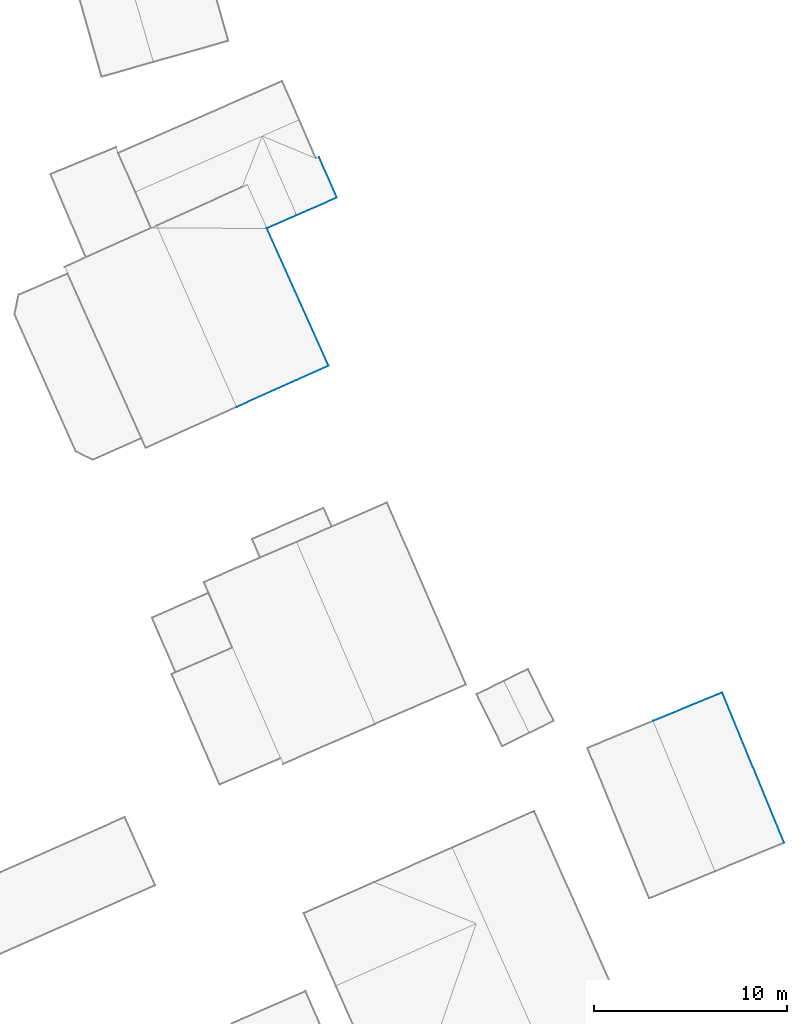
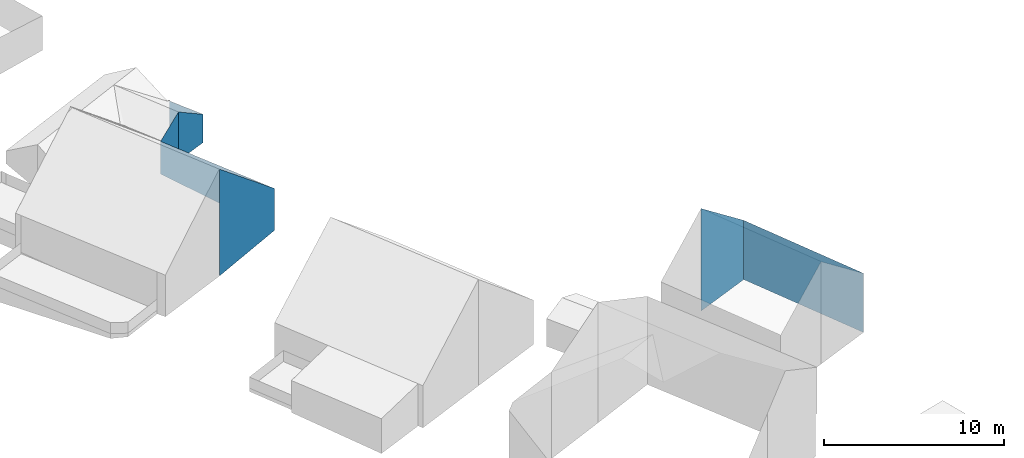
# Not in any storey, part 40 of 59: 7 walls.
"""IFC4 building model written with IfcOpenShell, lengths in metres."""

from ifc_helpers import new_model, entity, si_unit, converted_unit, origin, place, context, subcontext, project, spatial, face_set, surface_model, element, save


model = new_model("IFC4")

# Units and contexts
model_context = context("Model", 3, precision=1e-05, world=origin())
body_context = subcontext(model_context, "Body", "Model", "MODEL_VIEW")
ifc_project = project(units=[converted_unit("PLANEANGLEUNIT", "DEGREE", entity("IfcRatioMeasure", 0.0174532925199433), si_unit("PLANEANGLEUNIT", "RADIAN"), dimensions=[0, 0, 0, 0, 0, 0, 0]), si_unit("AREAUNIT", "SQUARE_METRE"), si_unit("LENGTHUNIT", "METRE")], contexts=[model_context])

# Site, building
site_placement = place(None, origin())
site = spatial("IfcSite", under=ifc_project, at=site_placement, Name="_site")
building_1_placement = place(site_placement, origin())
building_1 = spatial("IfcBuilding", under=site, at=building_1_placement, Name="_building")

# Walls
wall_1_placement = place(building_1_placement, origin())
element("IfcWall", 1, at=wall_1_placement, inside=building_1, Name="Wall", PredefinedType="NOTDEFINED", context=body_context, shape_type="SurfaceModel", body=[
    surface_model("IfcFaceBasedSurfaceModel", [(259.12, 206.471, 222.97), (262.71, 207.939, 220.02), (262.71, 207.939, 215.993), (259.12, 206.471, 216.001)], [face_set([[[0, 1, 2, 3]]])]),
])
wall_2_placement = place(building_1_placement, origin())
element("IfcWall", 2, at=wall_2_placement, inside=building_1, Name="Wall", PredefinedType="NOTDEFINED", context=body_context, shape_type="SurfaceModel", body=[
    surface_model("IfcFaceBasedSurfaceModel", [(262.71, 207.939, 220.02), (265.91, 200.16, 220.02), (265.91, 200.16, 216.002), (262.71, 207.939, 215.993)], [face_set([[[0, 1, 2, 3]]])]),
])

# Building
building_2_placement = place(site_placement, origin())
building_2 = spatial("IfcBuilding", under=site, at=building_2_placement, Name="_building")

# Walls
wall_3_placement = place(building_2_placement, origin())
element("IfcWall", 3, at=wall_3_placement, inside=building_2, Name="Wall", PredefinedType="NOTDEFINED", context=body_context, shape_type="SurfaceModel", body=[
    surface_model("IfcFaceBasedSurfaceModel", [(240.66, 232.66, 220.11), (239.12, 231.98, 219.06), (239.12, 231.98, 216.85), (240.66, 232.66, 216.798)], [face_set([[[0, 1, 2, 3]]])]),
])
wall_4_placement = place(building_2_placement, origin())
element("IfcWall", 4, at=wall_4_placement, inside=building_2, Name="Wall", PredefinedType="NOTDEFINED", context=body_context, shape_type="SurfaceModel", body=[
    surface_model("IfcFaceBasedSurfaceModel", [(242.75, 233.57, 218.67), (240.66, 232.66, 220.11), (240.66, 232.66, 216.798), (242.75, 233.57, 216.736)], [face_set([[[0, 1, 2, 3]]])]),
])
wall_5_placement = place(building_2_placement, origin())
element("IfcWall", 5, at=wall_5_placement, inside=building_2, Name="Wall", PredefinedType="NOTDEFINED", context=body_context, shape_type="SurfaceModel", body=[
    surface_model("IfcFaceBasedSurfaceModel", [(241.83, 235.67, 218.61), (242.75, 233.57, 218.67), (242.75, 233.57, 216.736), (241.83, 235.67, 216.76)], [face_set([[[0, 1, 2, 3]]])]),
])

# Building
building_3_placement = place(site_placement, origin())
building_3 = spatial("IfcBuilding", under=site, at=building_3_placement, Name="_building")

# Walls
wall_6_placement = place(building_3_placement, origin())
element("IfcWall", 6, at=wall_6_placement, inside=building_3, Name="Wall", PredefinedType="NOTDEFINED", context=body_context, shape_type="SurfaceModel", body=[
    surface_model("IfcFaceBasedSurfaceModel", [(242.32, 224.869, 219.06), (237.55, 222.73, 223.34), (237.55, 222.73, 216.068), (242.32, 224.869, 216.199)], [face_set([[[0, 1, 2, 3]]])]),
])
wall_7_placement = place(building_3_placement, origin())
element("IfcWall", 7, at=wall_7_placement, inside=building_3, Name="Wall", PredefinedType="NOTDEFINED", context=body_context, shape_type="SurfaceModel", body=[
    surface_model("IfcFaceBasedSurfaceModel", [(239.12, 231.98, 219.06), (242.32, 224.869, 219.06), (242.32, 224.869, 216.199), (239.12, 231.98, 216.85)], [face_set([[[0, 1, 2, 3]]])]),
])

save(model, "model.ifc")
